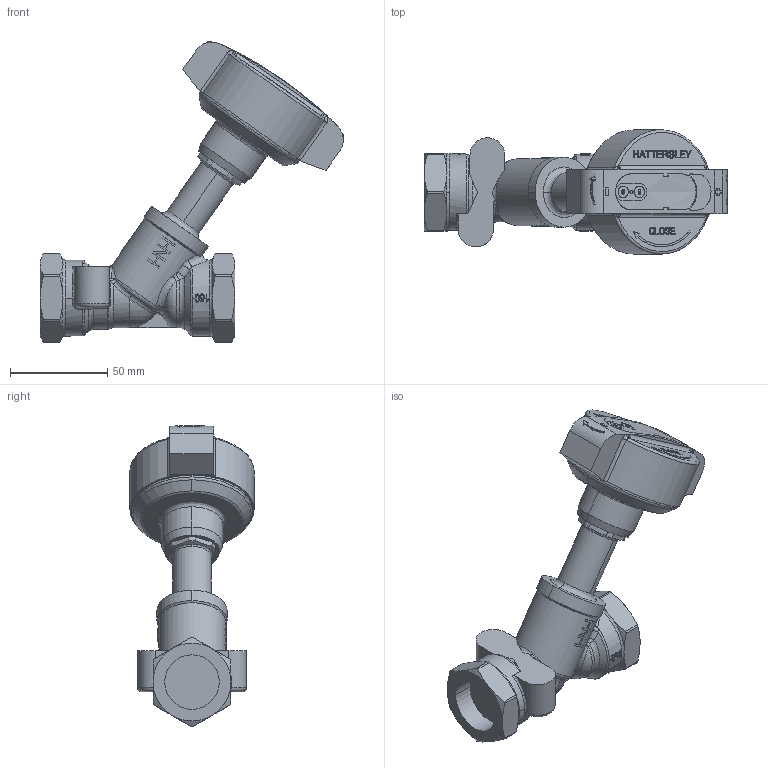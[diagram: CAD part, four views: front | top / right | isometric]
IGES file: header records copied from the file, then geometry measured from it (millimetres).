
Global section: file name: No Iges File Name specified; native system: AutoDesk Inventor R12.0; preprocessor: AutoDesk Inventor Iges Exporter R12.0; date: 20110307.125242; units: millimetre
Bounding box: 155.97 x 63.85 x 154.55 mm (x, y, z)
Volume: 267637.3 mm3; surface area: 39413.8 mm2
Topology: 1 solids, 1 shells, 656 faces, 1745 edges, 1136 vertices
Faces by surface type: plane 288, bspline 223, cylinder 77, cone 35, revolution 16, torus 15, sphere 2
